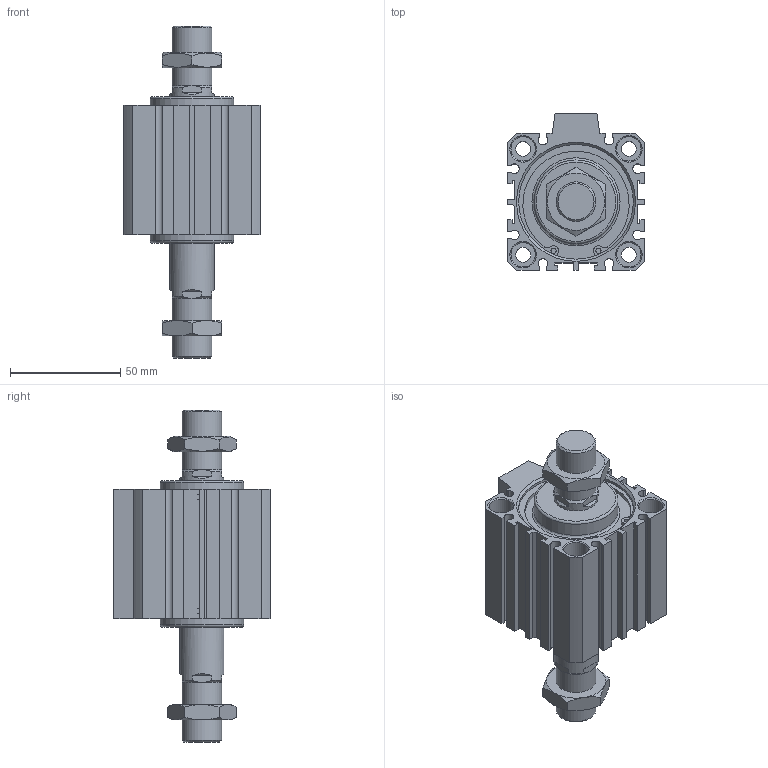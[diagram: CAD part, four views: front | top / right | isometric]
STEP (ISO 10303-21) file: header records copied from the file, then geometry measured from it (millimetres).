
FILE_DESCRIPTION((''),'2;1');
FILE_NAME('I:\3D電子目錄\氣缸\JDD\JDD-BS\JDD50-BS\JDD50x20-BS.stp','2007-02-27T15:05:05',('662F206'),(''),'Autodesk Inventor 10','Autodesk Inventor 10','');
FILE_SCHEMA(('AUTOMOTIVE_DESIGN { 1 0 10303 214 1 1 1 1 }'));
Length unit declared in the file: millimetre
Products named in the file (3): JDD50-BS; R 形環 52
Assembly tree (3 placements, depth 2):
  JDD50-BS
    JDD50-BS
    R 形環 52  x2
Bounding box: 62 x 71 x 150.6 mm (x, y, z)
Volume: 230555.7 mm3; surface area: 51095.4 mm2
Topology: 3 solids, 3 shells, 231 faces, 561 edges, 362 vertices
Faces by surface type: plane 133, cylinder 56, cone 38, bspline 2, torus 2
Full cylindrical faces by diameter (mm): 2.3 x4, 2.7 x2, 6.8 x4, 11 x8, 18 x4, 20 x2, 38 x2, 52 x4, 55 x2
Entity records: 6180 total; most frequent: CARTESIAN_POINT 1222, DIRECTION 1017, ORIENTED_EDGE 942, EDGE_CURVE 471, AXIS2_PLACEMENT_3D 375, VERTEX_POINT 334, EDGE_LOOP 309, VECTOR 267
